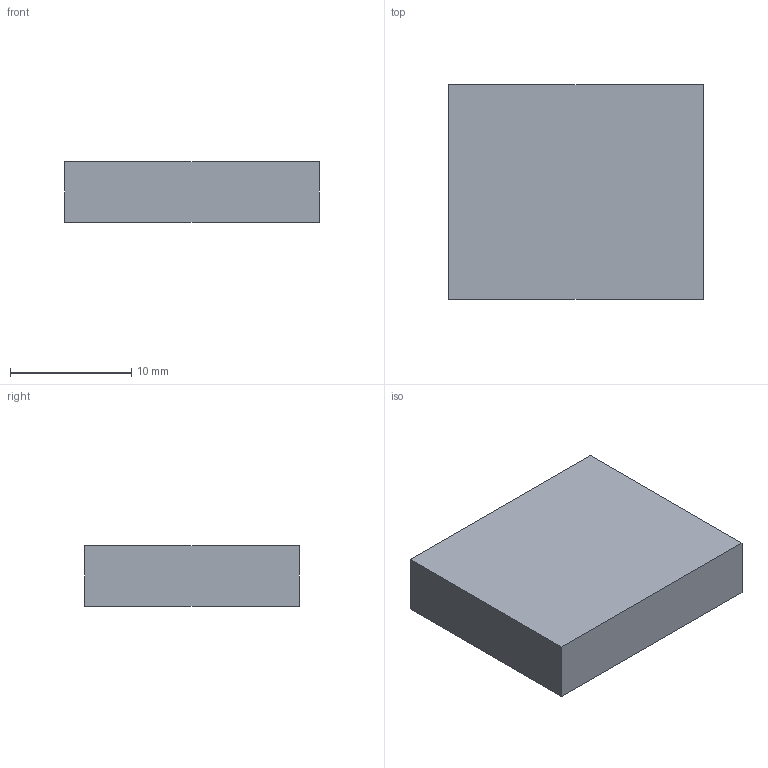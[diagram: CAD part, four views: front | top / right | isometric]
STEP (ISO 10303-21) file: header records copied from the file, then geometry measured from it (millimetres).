
FILE_DESCRIPTION(('Open CASCADE Model'),'2;1');
FILE_NAME('Open CASCADE Shape Model','2026-08-28T00:57:55',('Author'),( 'Open CASCADE'),'Open CASCADE STEP processor 7.8','Open CASCADE 7.8' ,'Unknown');
FILE_SCHEMA(('AUTOMOTIVE_DESIGN { 1 0 10303 214 1 1 1 1 }'));
Length unit declared in the file: millimetre
Products named in the file (1): Open CASCADE STEP translator 7.8 8
Bounding box: 21 x 17.7 x 5 mm (x, y, z)
Volume: 1858.5 mm3; surface area: 1130.4 mm2
Topology: 1 solids, 1 shells, 6 faces, 12 edges, 8 vertices
Faces by surface type: plane 6
Entity records: 322 total; most frequent: CARTESIAN_POINT 51, DIRECTION 50, LINE 36, VECTOR 36, ORIENTED_EDGE 24, PCURVE 24, DEFINITIONAL_REPRESENTATION 24, EDGE_CURVE 12
